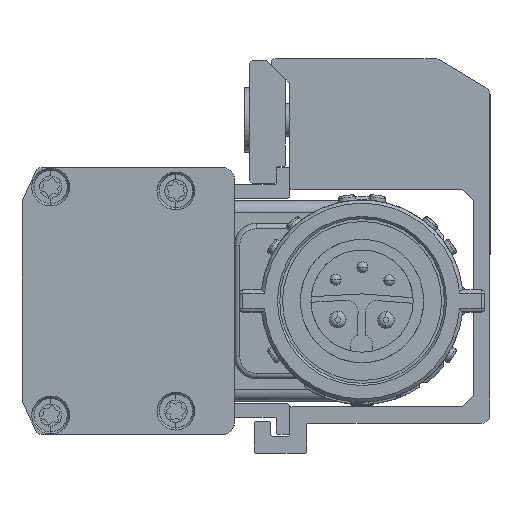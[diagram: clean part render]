
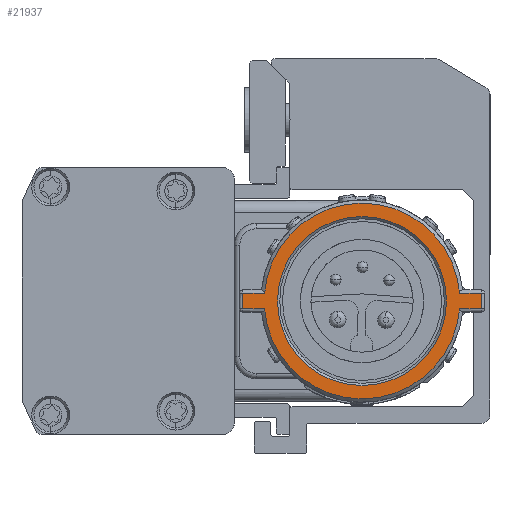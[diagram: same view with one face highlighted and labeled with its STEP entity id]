
A CAD part, left-side view. The second image highlights one B-rep face of the part: STEP entity #21937.
In plain terms, the highlighted planar face has unit normal (-1, 0, 0).
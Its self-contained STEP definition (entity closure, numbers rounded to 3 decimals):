
#307 = CARTESIAN_POINT ( 'NONE',  ( 0., 8.777, 0.7 ) ) ;
#2302 = EDGE_LOOP ( 'NONE', ( #29258, #21105, #2626, #59371, #21117, #31449, #50181, #54328 ) ) ;
#2341 = CARTESIAN_POINT ( 'NONE',  ( 0., 0.005, 0. ) ) ;
#2626 = ORIENTED_EDGE ( 'NONE', *, *, #49968, .F. ) ;
#4039 = AXIS2_PLACEMENT_3D ( 'NONE', #28252, #4818, #23148 ) ;
#4818 = DIRECTION ( 'NONE',  ( 1., 0., 0. ) ) ;
#5061 = LINE ( 'NONE', #14348, #61562 ) ;
#5497 = CARTESIAN_POINT ( 'NONE',  ( 0., -10.74, -0.7 ) ) ;
#5807 = CARTESIAN_POINT ( 'NONE',  ( 0., 10.75, -0.7 ) ) ;
#6449 = DIRECTION ( 'NONE',  ( 0., -1., 0. ) ) ;
#7645 = VERTEX_POINT ( 'NONE', #5497 ) ;
#8261 = LINE ( 'NONE', #27752, #36590 ) ;
#8680 = DIRECTION ( 'NONE',  ( 1., 0., 0. ) ) ;
#9538 = VERTEX_POINT ( 'NONE', #53202 ) ;
#9774 = PLANE ( 'NONE',  #31386 ) ;
#9961 = ORIENTED_EDGE ( 'NONE', *, *, #13494, .F. ) ;
#12783 = CARTESIAN_POINT ( 'NONE',  ( 0., -10.74, -0.7 ) ) ;
#13494 = EDGE_CURVE ( 'NONE', #9538, #20483, #18956, .T. ) ;
#14348 = CARTESIAN_POINT ( 'NONE',  ( 0., -10.74, 0.7 ) ) ;
#16338 = LINE ( 'NONE', #50219, #24511 ) ;
#17798 = VERTEX_POINT ( 'NONE', #34849 ) ;
#18021 = EDGE_CURVE ( 'NONE', #20483, #9538, #29952, .T. ) ;
#18094 = CARTESIAN_POINT ( 'NONE',  ( 0., 0.005, 0. ) ) ;
#18840 = VERTEX_POINT ( 'NONE', #48501 ) ;
#18956 = CIRCLE ( 'NONE', #58736, 7.6 ) ;
#19890 = DIRECTION ( 'NONE',  ( 0., 0.5, -0.866 ) ) ;
#20483 = VERTEX_POINT ( 'NONE', #37005 ) ;
#21105 = ORIENTED_EDGE ( 'NONE', *, *, #60145, .F. ) ;
#21117 = ORIENTED_EDGE ( 'NONE', *, *, #61640, .F. ) ;
#21628 = EDGE_CURVE ( 'NONE', #54453, #49745, #51768, .T. ) ;
#21635 = VERTEX_POINT ( 'NONE', #46737 ) ;
#21711 = DIRECTION ( 'NONE',  ( 0., 1., 0. ) ) ;
#21937 = ADVANCED_FACE ( 'NONE', ( #62814, #48451 ), #9774, .F. ) ;
#23148 = DIRECTION ( 'NONE',  ( 0., 0.5, -0.866 ) ) ;
#23216 = DIRECTION ( 'NONE',  ( 1., 0., 0. ) ) ;
#23278 = ORIENTED_EDGE ( 'NONE', *, *, #18021, .F. ) ;
#23423 = EDGE_CURVE ( 'NONE', #17798, #18840, #30673, .T. ) ;
#23840 = VECTOR ( 'NONE', #60696, 1000. ) ;
#24511 = VECTOR ( 'NONE', #6449, 1000. ) ;
#24557 = DIRECTION ( 'NONE',  ( 0., 0., -1. ) ) ;
#24814 = CARTESIAN_POINT ( 'NONE',  ( 0., 10.75, 0.7 ) ) ;
#25302 = LINE ( 'NONE', #5807, #26795 ) ;
#26795 = VECTOR ( 'NONE', #53431, 1000. ) ;
#27752 = CARTESIAN_POINT ( 'NONE',  ( 0., 10.75, 0.7 ) ) ;
#27856 = CARTESIAN_POINT ( 'NONE',  ( 0., 0.005, 0. ) ) ;
#28252 = CARTESIAN_POINT ( 'NONE',  ( 0., 0.005, 0. ) ) ;
#29258 = ORIENTED_EDGE ( 'NONE', *, *, #21628, .F. ) ;
#29855 = EDGE_CURVE ( 'NONE', #7645, #55310, #36114, .T. ) ;
#29952 = CIRCLE ( 'NONE', #50362, 7.6 ) ;
#30673 = LINE ( 'NONE', #39929, #62057 ) ;
#31386 = AXIS2_PLACEMENT_3D ( 'NONE', #18094, #23216, #62185 ) ;
#31449 = ORIENTED_EDGE ( 'NONE', *, *, #29855, .F. ) ;
#34849 = CARTESIAN_POINT ( 'NONE',  ( 0., 8.777, -0.7 ) ) ;
#36114 = LINE ( 'NONE', #12783, #23840 ) ;
#36590 = VECTOR ( 'NONE', #47273, 1000. ) ;
#37005 = CARTESIAN_POINT ( 'NONE',  ( 0., -3.795, 6.582 ) ) ;
#38369 = DIRECTION ( 'NONE',  ( 0., -0.5, 0.866 ) ) ;
#39929 = CARTESIAN_POINT ( 'NONE',  ( 0., 8.777, -0.7 ) ) ;
#40686 = CARTESIAN_POINT ( 'NONE',  ( 0., -8.767, -0.7 ) ) ;
#41634 = DIRECTION ( 'NONE',  ( 0., -0.5, 0.866 ) ) ;
#41960 = DIRECTION ( 'NONE',  ( -1., 0., 0. ) ) ;
#43000 = EDGE_CURVE ( 'NONE', #21635, #7645, #5061, .T. ) ;
#43206 = VERTEX_POINT ( 'NONE', #24814 ) ;
#43556 = CARTESIAN_POINT ( 'NONE',  ( 0., 0.005, 0. ) ) ;
#46737 = CARTESIAN_POINT ( 'NONE',  ( 0., -10.74, 0.7 ) ) ;
#47273 = DIRECTION ( 'NONE',  ( 0., -1., 0. ) ) ;
#48085 = EDGE_LOOP ( 'NONE', ( #23278, #9961 ) ) ;
#48451 = FACE_OUTER_BOUND ( 'NONE', #2302, .T. ) ;
#48501 = CARTESIAN_POINT ( 'NONE',  ( 0., 10.75, -0.7 ) ) ;
#49745 = VERTEX_POINT ( 'NONE', #50277 ) ;
#49968 = EDGE_CURVE ( 'NONE', #18840, #43206, #25302, .T. ) ;
#50181 = ORIENTED_EDGE ( 'NONE', *, *, #43000, .F. ) ;
#50219 = CARTESIAN_POINT ( 'NONE',  ( 0., -8.767, 0.7 ) ) ;
#50277 = CARTESIAN_POINT ( 'NONE',  ( 0., -8.767, 0.7 ) ) ;
#50362 = AXIS2_PLACEMENT_3D ( 'NONE', #2341, #41960, #41634 ) ;
#51768 = CIRCLE ( 'NONE', #58871, 8.8 ) ;
#53202 = CARTESIAN_POINT ( 'NONE',  ( 0., 3.805, -6.582 ) ) ;
#53431 = DIRECTION ( 'NONE',  ( 0., 0., 1. ) ) ;
#53442 = DIRECTION ( 'NONE',  ( -1., 0., 0. ) ) ;
#54328 = ORIENTED_EDGE ( 'NONE', *, *, #62069, .F. ) ;
#54453 = VERTEX_POINT ( 'NONE', #307 ) ;
#55310 = VERTEX_POINT ( 'NONE', #40686 ) ;
#58736 = AXIS2_PLACEMENT_3D ( 'NONE', #43556, #53442, #19890 ) ;
#58871 = AXIS2_PLACEMENT_3D ( 'NONE', #27856, #8680, #38369 ) ;
#59069 = CIRCLE ( 'NONE', #4039, 8.8 ) ;
#59371 = ORIENTED_EDGE ( 'NONE', *, *, #23423, .F. ) ;
#60145 = EDGE_CURVE ( 'NONE', #43206, #54453, #8261, .T. ) ;
#60696 = DIRECTION ( 'NONE',  ( 0., 1., 0. ) ) ;
#61562 = VECTOR ( 'NONE', #24557, 1000. ) ;
#61640 = EDGE_CURVE ( 'NONE', #55310, #17798, #59069, .T. ) ;
#62057 = VECTOR ( 'NONE', #21711, 1000. ) ;
#62069 = EDGE_CURVE ( 'NONE', #49745, #21635, #16338, .T. ) ;
#62185 = DIRECTION ( 'NONE',  ( 0., -1., 0. ) ) ;
#62814 = FACE_BOUND ( 'NONE', #48085, .T. ) ;
